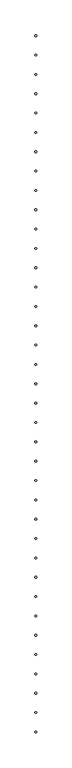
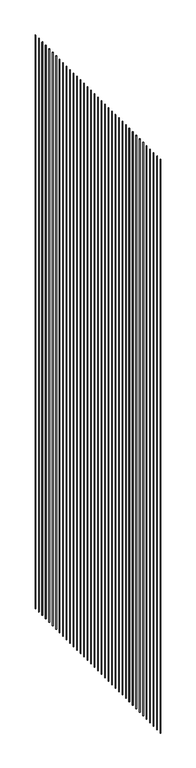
"""IFC4 building model written with IfcOpenShell, lengths in millimetres: railing geometry, Zaun."""

from ifc_helpers import new_model, si_unit, point, frame, frame_2d, origin, place, context, project, spatial, circle_curve, trimmed, segment, composite_curve, outline, extrude, source, transform, mapped, element, save


def railing_da5ac5a1(model_context):
    return source(origin(), model_context, "Body", "SweptSolid", [
        extrude(outline(composite_curve([segment(trimmed(circle_curve(frame_2d((46777.9264557, -34404.1333034)), 1.5), [point((46776.4264557, -34404.1333034))], [point((46779.4264557, -34404.1333034))], False, "CARTESIAN"), True, "CONTINUOUS"), segment(trimmed(circle_curve(frame_2d((46777.9264557, -34404.1333034)), 1.5), [point((46779.4264557, -34404.1333034))], [point((46776.4264557, -34404.1333034))], False, "CARTESIAN"), True, "CONTINUOUS")], self_intersect=False)), frame((0.0, 0.0, 100.0), z_axis=(0.0, 0.0, 1.0), x_axis=(1.0, 0.0, 0.0)), (0.0, 0.0, 1.0), 3450.0),
        extrude(outline(composite_curve([segment(trimmed(circle_curve(frame_2d((46777.9264557, -34438.4470289)), 1.5), [point((46776.4264557, -34438.4470289))], [point((46779.4264557, -34438.4470289))], False, "CARTESIAN"), True, "CONTINUOUS"), segment(trimmed(circle_curve(frame_2d((46777.9264557, -34438.4470289)), 1.5), [point((46779.4264557, -34438.4470289))], [point((46776.4264557, -34438.4470289))], False, "CARTESIAN"), True, "CONTINUOUS")], self_intersect=False)), frame((0.0, 0.0, 100.0), z_axis=(0.0, 0.0, 1.0), x_axis=(1.0, 0.0, 0.0)), (0.0, 0.0, 1.0), 3450.0),
        extrude(outline(composite_curve([segment(trimmed(circle_curve(frame_2d((46777.9264557, -34472.7607543)), 1.5), [point((46776.4264557, -34472.7607543))], [point((46779.4264557, -34472.7607543))], False, "CARTESIAN"), True, "CONTINUOUS"), segment(trimmed(circle_curve(frame_2d((46777.9264557, -34472.7607543)), 1.5), [point((46779.4264557, -34472.7607543))], [point((46776.4264557, -34472.7607543))], False, "CARTESIAN"), True, "CONTINUOUS")], self_intersect=False)), frame((0.0, 0.0, 100.0), z_axis=(0.0, 0.0, 1.0), x_axis=(1.0, 0.0, 0.0)), (0.0, 0.0, 1.0), 3450.0),
        extrude(outline(composite_curve([segment(trimmed(circle_curve(frame_2d((46777.9264557, -34507.0744798)), 1.5), [point((46776.4264557, -34507.0744798))], [point((46779.4264557, -34507.0744798))], False, "CARTESIAN"), True, "CONTINUOUS"), segment(trimmed(circle_curve(frame_2d((46777.9264557, -34507.0744798)), 1.5), [point((46779.4264557, -34507.0744798))], [point((46776.4264557, -34507.0744798))], False, "CARTESIAN"), True, "CONTINUOUS")], self_intersect=False)), frame((0.0, 0.0, 100.0), z_axis=(0.0, 0.0, 1.0), x_axis=(1.0, 0.0, 0.0)), (0.0, 0.0, 1.0), 3450.0),
        extrude(outline(composite_curve([segment(trimmed(circle_curve(frame_2d((46777.9264557, -34541.3882053)), 1.5), [point((46776.4264557, -34541.3882053))], [point((46779.4264557, -34541.3882053))], False, "CARTESIAN"), True, "CONTINUOUS"), segment(trimmed(circle_curve(frame_2d((46777.9264557, -34541.3882053)), 1.5), [point((46779.4264557, -34541.3882053))], [point((46776.4264557, -34541.3882053))], False, "CARTESIAN"), True, "CONTINUOUS")], self_intersect=False)), frame((0.0, 0.0, 100.0), z_axis=(0.0, 0.0, 1.0), x_axis=(1.0, 0.0, 0.0)), (0.0, 0.0, 1.0), 3450.0),
        extrude(outline(composite_curve([segment(trimmed(circle_curve(frame_2d((46777.9264557, -34575.7019308)), 1.5), [point((46776.4264557, -34575.7019308))], [point((46779.4264557, -34575.7019308))], False, "CARTESIAN"), True, "CONTINUOUS"), segment(trimmed(circle_curve(frame_2d((46777.9264557, -34575.7019308)), 1.5), [point((46779.4264557, -34575.7019308))], [point((46776.4264557, -34575.7019308))], False, "CARTESIAN"), True, "CONTINUOUS")], self_intersect=False)), frame((0.0, 0.0, 100.0), z_axis=(0.0, 0.0, 1.0), x_axis=(1.0, 0.0, 0.0)), (0.0, 0.0, 1.0), 3450.0),
        extrude(outline(composite_curve([segment(trimmed(circle_curve(frame_2d((46777.9264557, -34610.0156563)), 1.5), [point((46776.4264557, -34610.0156563))], [point((46779.4264557, -34610.0156563))], False, "CARTESIAN"), True, "CONTINUOUS"), segment(trimmed(circle_curve(frame_2d((46777.9264557, -34610.0156563)), 1.5), [point((46779.4264557, -34610.0156563))], [point((46776.4264557, -34610.0156563))], False, "CARTESIAN"), True, "CONTINUOUS")], self_intersect=False)), frame((0.0, 0.0, 100.0), z_axis=(0.0, 0.0, 1.0), x_axis=(1.0, 0.0, 0.0)), (0.0, 0.0, 1.0), 3450.0),
        extrude(outline(composite_curve([segment(trimmed(circle_curve(frame_2d((46777.9264557, -34644.3293818)), 1.5), [point((46776.4264557, -34644.3293818))], [point((46779.4264557, -34644.3293818))], False, "CARTESIAN"), True, "CONTINUOUS"), segment(trimmed(circle_curve(frame_2d((46777.9264557, -34644.3293818)), 1.5), [point((46779.4264557, -34644.3293818))], [point((46776.4264557, -34644.3293818))], False, "CARTESIAN"), True, "CONTINUOUS")], self_intersect=False)), frame((0.0, 0.0, 100.0), z_axis=(0.0, 0.0, 1.0), x_axis=(1.0, 0.0, 0.0)), (0.0, 0.0, 1.0), 3450.0),
        extrude(outline(composite_curve([segment(trimmed(circle_curve(frame_2d((46777.9264557, -34678.6431073)), 1.5), [point((46776.4264557, -34678.6431073))], [point((46779.4264557, -34678.6431073))], False, "CARTESIAN"), True, "CONTINUOUS"), segment(trimmed(circle_curve(frame_2d((46777.9264557, -34678.6431073)), 1.5), [point((46779.4264557, -34678.6431073))], [point((46776.4264557, -34678.6431073))], False, "CARTESIAN"), True, "CONTINUOUS")], self_intersect=False)), frame((0.0, 0.0, 100.0), z_axis=(0.0, 0.0, 1.0), x_axis=(1.0, 0.0, 0.0)), (0.0, 0.0, 1.0), 3450.0),
        extrude(outline(composite_curve([segment(trimmed(circle_curve(frame_2d((46777.9264557, -34712.9568328)), 1.5), [point((46776.4264557, -34712.9568328))], [point((46779.4264557, -34712.9568328))], False, "CARTESIAN"), True, "CONTINUOUS"), segment(trimmed(circle_curve(frame_2d((46777.9264557, -34712.9568328)), 1.5), [point((46779.4264557, -34712.9568328))], [point((46776.4264557, -34712.9568328))], False, "CARTESIAN"), True, "CONTINUOUS")], self_intersect=False)), frame((0.0, 0.0, 100.0), z_axis=(0.0, 0.0, 1.0), x_axis=(1.0, 0.0, 0.0)), (0.0, 0.0, 1.0), 3450.0),
        extrude(outline(composite_curve([segment(trimmed(circle_curve(frame_2d((46777.9264557, -34747.2705583)), 1.5), [point((46776.4264557, -34747.2705583))], [point((46779.4264557, -34747.2705583))], False, "CARTESIAN"), True, "CONTINUOUS"), segment(trimmed(circle_curve(frame_2d((46777.9264557, -34747.2705583)), 1.5), [point((46779.4264557, -34747.2705583))], [point((46776.4264557, -34747.2705583))], False, "CARTESIAN"), True, "CONTINUOUS")], self_intersect=False)), frame((0.0, 0.0, 100.0), z_axis=(0.0, 0.0, 1.0), x_axis=(1.0, 0.0, 0.0)), (0.0, 0.0, 1.0), 3450.0),
        extrude(outline(composite_curve([segment(trimmed(circle_curve(frame_2d((46777.9264557, -34781.5842838)), 1.5), [point((46776.4264557, -34781.5842838))], [point((46779.4264557, -34781.5842838))], False, "CARTESIAN"), True, "CONTINUOUS"), segment(trimmed(circle_curve(frame_2d((46777.9264557, -34781.5842838)), 1.5), [point((46779.4264557, -34781.5842838))], [point((46776.4264557, -34781.5842838))], False, "CARTESIAN"), True, "CONTINUOUS")], self_intersect=False)), frame((0.0, 0.0, 100.0), z_axis=(0.0, 0.0, 1.0), x_axis=(1.0, 0.0, 0.0)), (0.0, 0.0, 1.0), 3450.0),
        extrude(outline(composite_curve([segment(trimmed(circle_curve(frame_2d((46777.9264557, -34815.8980092)), 1.5), [point((46776.4264557, -34815.8980092))], [point((46779.4264557, -34815.8980092))], False, "CARTESIAN"), True, "CONTINUOUS"), segment(trimmed(circle_curve(frame_2d((46777.9264557, -34815.8980092)), 1.5), [point((46779.4264557, -34815.8980092))], [point((46776.4264557, -34815.8980092))], False, "CARTESIAN"), True, "CONTINUOUS")], self_intersect=False)), frame((0.0, 0.0, 100.0), z_axis=(0.0, 0.0, 1.0), x_axis=(1.0, 0.0, 0.0)), (0.0, 0.0, 1.0), 3450.0),
        extrude(outline(composite_curve([segment(trimmed(circle_curve(frame_2d((46777.9264557, -34850.2117347)), 1.5), [point((46776.4264557, -34850.2117347))], [point((46779.4264557, -34850.2117347))], False, "CARTESIAN"), True, "CONTINUOUS"), segment(trimmed(circle_curve(frame_2d((46777.9264557, -34850.2117347)), 1.5), [point((46779.4264557, -34850.2117347))], [point((46776.4264557, -34850.2117347))], False, "CARTESIAN"), True, "CONTINUOUS")], self_intersect=False)), frame((0.0, 0.0, 100.0), z_axis=(0.0, 0.0, 1.0), x_axis=(1.0, 0.0, 0.0)), (0.0, 0.0, 1.0), 3450.0),
        extrude(outline(composite_curve([segment(trimmed(circle_curve(frame_2d((46777.9264557, -34884.5254602)), 1.5), [point((46776.4264557, -34884.5254602))], [point((46779.4264557, -34884.5254602))], False, "CARTESIAN"), True, "CONTINUOUS"), segment(trimmed(circle_curve(frame_2d((46777.9264557, -34884.5254602)), 1.5), [point((46779.4264557, -34884.5254602))], [point((46776.4264557, -34884.5254602))], False, "CARTESIAN"), True, "CONTINUOUS")], self_intersect=False)), frame((0.0, 0.0, 100.0), z_axis=(0.0, 0.0, 1.0), x_axis=(1.0, 0.0, 0.0)), (0.0, 0.0, 1.0), 3450.0),
        extrude(outline(composite_curve([segment(trimmed(circle_curve(frame_2d((46777.9264557, -34918.8391857)), 1.5), [point((46776.4264557, -34918.8391857))], [point((46779.4264557, -34918.8391857))], False, "CARTESIAN"), True, "CONTINUOUS"), segment(trimmed(circle_curve(frame_2d((46777.9264557, -34918.8391857)), 1.5), [point((46779.4264557, -34918.8391857))], [point((46776.4264557, -34918.8391857))], False, "CARTESIAN"), True, "CONTINUOUS")], self_intersect=False)), frame((0.0, 0.0, 100.0), z_axis=(0.0, 0.0, 1.0), x_axis=(1.0, 0.0, 0.0)), (0.0, 0.0, 1.0), 3450.0),
        extrude(outline(composite_curve([segment(trimmed(circle_curve(frame_2d((46777.9264557, -34953.1529112)), 1.5), [point((46776.4264557, -34953.1529112))], [point((46779.4264557, -34953.1529112))], False, "CARTESIAN"), True, "CONTINUOUS"), segment(trimmed(circle_curve(frame_2d((46777.9264557, -34953.1529112)), 1.5), [point((46779.4264557, -34953.1529112))], [point((46776.4264557, -34953.1529112))], False, "CARTESIAN"), True, "CONTINUOUS")], self_intersect=False)), frame((0.0, 0.0, 100.0), z_axis=(0.0, 0.0, 1.0), x_axis=(1.0, 0.0, 0.0)), (0.0, 0.0, 1.0), 3450.0),
        extrude(outline(composite_curve([segment(trimmed(circle_curve(frame_2d((46777.9264557, -34987.4666367)), 1.5), [point((46776.4264557, -34987.4666367))], [point((46779.4264557, -34987.4666367))], False, "CARTESIAN"), True, "CONTINUOUS"), segment(trimmed(circle_curve(frame_2d((46777.9264557, -34987.4666367)), 1.5), [point((46779.4264557, -34987.4666367))], [point((46776.4264557, -34987.4666367))], False, "CARTESIAN"), True, "CONTINUOUS")], self_intersect=False)), frame((0.0, 0.0, 100.0), z_axis=(0.0, 0.0, 1.0), x_axis=(1.0, 0.0, 0.0)), (0.0, 0.0, 1.0), 3450.0),
        extrude(outline(composite_curve([segment(trimmed(circle_curve(frame_2d((46777.9264557, -35021.7803622)), 1.5), [point((46776.4264557, -35021.7803622))], [point((46779.4264557, -35021.7803622))], False, "CARTESIAN"), True, "CONTINUOUS"), segment(trimmed(circle_curve(frame_2d((46777.9264557, -35021.7803622)), 1.5), [point((46779.4264557, -35021.7803622))], [point((46776.4264557, -35021.7803622))], False, "CARTESIAN"), True, "CONTINUOUS")], self_intersect=False)), frame((0.0, 0.0, 100.0), z_axis=(0.0, 0.0, 1.0), x_axis=(1.0, 0.0, 0.0)), (0.0, 0.0, 1.0), 3450.0),
        extrude(outline(composite_curve([segment(trimmed(circle_curve(frame_2d((46777.9264557, -35056.0940877)), 1.5), [point((46776.4264557, -35056.0940877))], [point((46779.4264557, -35056.0940877))], False, "CARTESIAN"), True, "CONTINUOUS"), segment(trimmed(circle_curve(frame_2d((46777.9264557, -35056.0940877)), 1.5), [point((46779.4264557, -35056.0940877))], [point((46776.4264557, -35056.0940877))], False, "CARTESIAN"), True, "CONTINUOUS")], self_intersect=False)), frame((0.0, 0.0, 100.0), z_axis=(0.0, 0.0, 1.0), x_axis=(1.0, 0.0, 0.0)), (0.0, 0.0, 1.0), 3450.0),
        extrude(outline(composite_curve([segment(trimmed(circle_curve(frame_2d((46777.9264557, -35090.4078132)), 1.5), [point((46776.4264557, -35090.4078132))], [point((46779.4264557, -35090.4078132))], False, "CARTESIAN"), True, "CONTINUOUS"), segment(trimmed(circle_curve(frame_2d((46777.9264557, -35090.4078132)), 1.5), [point((46779.4264557, -35090.4078132))], [point((46776.4264557, -35090.4078132))], False, "CARTESIAN"), True, "CONTINUOUS")], self_intersect=False)), frame((0.0, 0.0, 100.0), z_axis=(0.0, 0.0, 1.0), x_axis=(1.0, 0.0, 0.0)), (0.0, 0.0, 1.0), 3450.0),
        extrude(outline(composite_curve([segment(trimmed(circle_curve(frame_2d((46777.9264557, -35124.7215387)), 1.5), [point((46776.4264557, -35124.7215387))], [point((46779.4264557, -35124.7215387))], False, "CARTESIAN"), True, "CONTINUOUS"), segment(trimmed(circle_curve(frame_2d((46777.9264557, -35124.7215387)), 1.5), [point((46779.4264557, -35124.7215387))], [point((46776.4264557, -35124.7215387))], False, "CARTESIAN"), True, "CONTINUOUS")], self_intersect=False)), frame((0.0, 0.0, 100.0), z_axis=(0.0, 0.0, 1.0), x_axis=(1.0, 0.0, 0.0)), (0.0, 0.0, 1.0), 3450.0),
        extrude(outline(composite_curve([segment(trimmed(circle_curve(frame_2d((46777.9264557, -35159.0352642)), 1.5), [point((46776.4264557, -35159.0352642))], [point((46779.4264557, -35159.0352642))], False, "CARTESIAN"), True, "CONTINUOUS"), segment(trimmed(circle_curve(frame_2d((46777.9264557, -35159.0352642)), 1.5), [point((46779.4264557, -35159.0352642))], [point((46776.4264557, -35159.0352642))], False, "CARTESIAN"), True, "CONTINUOUS")], self_intersect=False)), frame((0.0, 0.0, 100.0), z_axis=(0.0, 0.0, 1.0), x_axis=(1.0, 0.0, 0.0)), (0.0, 0.0, 1.0), 3450.0),
        extrude(outline(composite_curve([segment(trimmed(circle_curve(frame_2d((46777.9264557, -35193.3489896)), 1.5), [point((46776.4264557, -35193.3489896))], [point((46779.4264557, -35193.3489896))], False, "CARTESIAN"), True, "CONTINUOUS"), segment(trimmed(circle_curve(frame_2d((46777.9264557, -35193.3489896)), 1.5), [point((46779.4264557, -35193.3489896))], [point((46776.4264557, -35193.3489896))], False, "CARTESIAN"), True, "CONTINUOUS")], self_intersect=False)), frame((0.0, 0.0, 100.0), z_axis=(0.0, 0.0, 1.0), x_axis=(1.0, 0.0, 0.0)), (0.0, 0.0, 1.0), 3450.0),
        extrude(outline(composite_curve([segment(trimmed(circle_curve(frame_2d((46777.9264557, -35227.6627151)), 1.5), [point((46776.4264557, -35227.6627151))], [point((46779.4264557, -35227.6627151))], False, "CARTESIAN"), True, "CONTINUOUS"), segment(trimmed(circle_curve(frame_2d((46777.9264557, -35227.6627151)), 1.5), [point((46779.4264557, -35227.6627151))], [point((46776.4264557, -35227.6627151))], False, "CARTESIAN"), True, "CONTINUOUS")], self_intersect=False)), frame((0.0, 0.0, 100.0), z_axis=(0.0, 0.0, 1.0), x_axis=(1.0, 0.0, 0.0)), (0.0, 0.0, 1.0), 3450.0),
        extrude(outline(composite_curve([segment(trimmed(circle_curve(frame_2d((46777.9264557, -35261.9764406)), 1.5), [point((46776.4264557, -35261.9764406))], [point((46779.4264557, -35261.9764406))], False, "CARTESIAN"), True, "CONTINUOUS"), segment(trimmed(circle_curve(frame_2d((46777.9264557, -35261.9764406)), 1.5), [point((46779.4264557, -35261.9764406))], [point((46776.4264557, -35261.9764406))], False, "CARTESIAN"), True, "CONTINUOUS")], self_intersect=False)), frame((0.0, 0.0, 100.0), z_axis=(0.0, 0.0, 1.0), x_axis=(1.0, 0.0, 0.0)), (0.0, 0.0, 1.0), 3450.0),
        extrude(outline(composite_curve([segment(trimmed(circle_curve(frame_2d((46777.9264557, -35296.2901661)), 1.5), [point((46776.4264557, -35296.2901661))], [point((46779.4264557, -35296.2901661))], False, "CARTESIAN"), True, "CONTINUOUS"), segment(trimmed(circle_curve(frame_2d((46777.9264557, -35296.2901661)), 1.5), [point((46779.4264557, -35296.2901661))], [point((46776.4264557, -35296.2901661))], False, "CARTESIAN"), True, "CONTINUOUS")], self_intersect=False)), frame((0.0, 0.0, 100.0), z_axis=(0.0, 0.0, 1.0), x_axis=(1.0, 0.0, 0.0)), (0.0, 0.0, 1.0), 3450.0),
        extrude(outline(composite_curve([segment(trimmed(circle_curve(frame_2d((46777.9264557, -35330.6038916)), 1.5), [point((46776.4264557, -35330.6038916))], [point((46779.4264557, -35330.6038916))], False, "CARTESIAN"), True, "CONTINUOUS"), segment(trimmed(circle_curve(frame_2d((46777.9264557, -35330.6038916)), 1.5), [point((46779.4264557, -35330.6038916))], [point((46776.4264557, -35330.6038916))], False, "CARTESIAN"), True, "CONTINUOUS")], self_intersect=False)), frame((0.0, 0.0, 100.0), z_axis=(0.0, 0.0, 1.0), x_axis=(1.0, 0.0, 0.0)), (0.0, 0.0, 1.0), 3450.0),
        extrude(outline(composite_curve([segment(trimmed(circle_curve(frame_2d((46777.9264557, -35364.9176171)), 1.5), [point((46776.4264557, -35364.9176171))], [point((46779.4264557, -35364.9176171))], False, "CARTESIAN"), True, "CONTINUOUS"), segment(trimmed(circle_curve(frame_2d((46777.9264557, -35364.9176171)), 1.5), [point((46779.4264557, -35364.9176171))], [point((46776.4264557, -35364.9176171))], False, "CARTESIAN"), True, "CONTINUOUS")], self_intersect=False)), frame((0.0, 0.0, 100.0), z_axis=(0.0, 0.0, 1.0), x_axis=(1.0, 0.0, 0.0)), (0.0, 0.0, 1.0), 3450.0),
        extrude(outline(composite_curve([segment(trimmed(circle_curve(frame_2d((46777.9264557, -35399.2313426)), 1.5), [point((46776.4264557, -35399.2313426))], [point((46779.4264557, -35399.2313426))], False, "CARTESIAN"), True, "CONTINUOUS"), segment(trimmed(circle_curve(frame_2d((46777.9264557, -35399.2313426)), 1.5), [point((46779.4264557, -35399.2313426))], [point((46776.4264557, -35399.2313426))], False, "CARTESIAN"), True, "CONTINUOUS")], self_intersect=False)), frame((0.0, 0.0, 100.0), z_axis=(0.0, 0.0, 1.0), x_axis=(1.0, 0.0, 0.0)), (0.0, 0.0, 1.0), 3450.0),
        extrude(outline(composite_curve([segment(trimmed(circle_curve(frame_2d((46777.9264557, -35433.5450681)), 1.5), [point((46776.4264557, -35433.5450681))], [point((46779.4264557, -35433.5450681))], False, "CARTESIAN"), True, "CONTINUOUS"), segment(trimmed(circle_curve(frame_2d((46777.9264557, -35433.5450681)), 1.5), [point((46779.4264557, -35433.5450681))], [point((46776.4264557, -35433.5450681))], False, "CARTESIAN"), True, "CONTINUOUS")], self_intersect=False)), frame((0.0, 0.0, 100.0), z_axis=(0.0, 0.0, 1.0), x_axis=(1.0, 0.0, 0.0)), (0.0, 0.0, 1.0), 3450.0),
        extrude(outline(composite_curve([segment(trimmed(circle_curve(frame_2d((46777.9264557, -35467.8587936)), 1.5), [point((46776.4264557, -35467.8587936))], [point((46779.4264557, -35467.8587936))], False, "CARTESIAN"), True, "CONTINUOUS"), segment(trimmed(circle_curve(frame_2d((46777.9264557, -35467.8587936)), 1.5), [point((46779.4264557, -35467.8587936))], [point((46776.4264557, -35467.8587936))], False, "CARTESIAN"), True, "CONTINUOUS")], self_intersect=False)), frame((0.0, 0.0, 100.0), z_axis=(0.0, 0.0, 1.0), x_axis=(1.0, 0.0, 0.0)), (0.0, 0.0, 1.0), 3450.0),
        extrude(outline(composite_curve([segment(trimmed(circle_curve(frame_2d((46777.9264557, -35502.1725191)), 1.5), [point((46776.4264557, -35502.1725191))], [point((46779.4264557, -35502.1725191))], False, "CARTESIAN"), True, "CONTINUOUS"), segment(trimmed(circle_curve(frame_2d((46777.9264557, -35502.1725191)), 1.5), [point((46779.4264557, -35502.1725191))], [point((46776.4264557, -35502.1725191))], False, "CARTESIAN"), True, "CONTINUOUS")], self_intersect=False)), frame((0.0, 0.0, 100.0), z_axis=(0.0, 0.0, 1.0), x_axis=(1.0, 0.0, 0.0)), (0.0, 0.0, 1.0), 3450.0),
        extrude(outline(composite_curve([segment(trimmed(circle_curve(frame_2d((46777.9264557, -35536.4862445)), 1.5), [point((46776.4264557, -35536.4862445))], [point((46779.4264557, -35536.4862445))], False, "CARTESIAN"), True, "CONTINUOUS"), segment(trimmed(circle_curve(frame_2d((46777.9264557, -35536.4862445)), 1.5), [point((46779.4264557, -35536.4862445))], [point((46776.4264557, -35536.4862445))], False, "CARTESIAN"), True, "CONTINUOUS")], self_intersect=False)), frame((0.0, 0.0, 100.0), z_axis=(0.0, 0.0, 1.0), x_axis=(1.0, 0.0, 0.0)), (0.0, 0.0, 1.0), 3450.0),
        extrude(outline(composite_curve([segment(trimmed(circle_curve(frame_2d((46777.9264557, -35570.79997)), 1.5), [point((46776.4264557, -35570.79997))], [point((46779.4264557, -35570.79997))], False, "CARTESIAN"), True, "CONTINUOUS"), segment(trimmed(circle_curve(frame_2d((46777.9264557, -35570.79997)), 1.5), [point((46779.4264557, -35570.79997))], [point((46776.4264557, -35570.79997))], False, "CARTESIAN"), True, "CONTINUOUS")], self_intersect=False)), frame((0.0, 0.0, 100.0), z_axis=(0.0, 0.0, 1.0), x_axis=(1.0, 0.0, 0.0)), (0.0, 0.0, 1.0), 3450.0),
        extrude(outline(composite_curve([segment(trimmed(circle_curve(frame_2d((46777.9264557, -35605.1136955)), 1.5), [point((46776.4264557, -35605.1136955))], [point((46779.4264557, -35605.1136955))], False, "CARTESIAN"), True, "CONTINUOUS"), segment(trimmed(circle_curve(frame_2d((46777.9264557, -35605.1136955)), 1.5), [point((46779.4264557, -35605.1136955))], [point((46776.4264557, -35605.1136955))], False, "CARTESIAN"), True, "CONTINUOUS")], self_intersect=False)), frame((0.0, 0.0, 100.0), z_axis=(0.0, 0.0, 1.0), x_axis=(1.0, 0.0, 0.0)), (0.0, 0.0, 1.0), 3450.0),
        extrude(outline(composite_curve([segment(trimmed(circle_curve(frame_2d((46777.9264557, -35639.427421)), 1.5), [point((46776.4264557, -35639.427421))], [point((46779.4264557, -35639.427421))], False, "CARTESIAN"), True, "CONTINUOUS"), segment(trimmed(circle_curve(frame_2d((46777.9264557, -35639.427421)), 1.5), [point((46779.4264557, -35639.427421))], [point((46776.4264557, -35639.427421))], False, "CARTESIAN"), True, "CONTINUOUS")], self_intersect=False)), frame((0.0, 0.0, 100.0), z_axis=(0.0, 0.0, 1.0), x_axis=(1.0, 0.0, 0.0)), (0.0, 0.0, 1.0), 3450.0),
    ])


if __name__ == "__main__":
    model = new_model("IFC4")
    model_context = context("Model", 3, world=origin())
    ifc_project = project(units=[si_unit("LENGTHUNIT", "METRE", prefix="MILLI")], contexts=[model_context])
    site = spatial("IfcSite", under=ifc_project)
    building = spatial("IfcBuilding", under=site)
    placement = place(None, origin())
    railing_shape = railing_da5ac5a1(model_context)
    element("IfcRailing", 1, ObjectType="Zaun", at=placement, inside=building, context=model_context, shape_type="MappedRepresentation", body=[
        mapped(railing_shape, transform((0.0, 0.0, 0.0), x_axis=(1.0, 0.0, 0.0), y_axis=(0.0, 1.0, 0.0), z_axis=(0.0, 0.0, 1.0))),
    ])
    save(model, "model.ifc")
